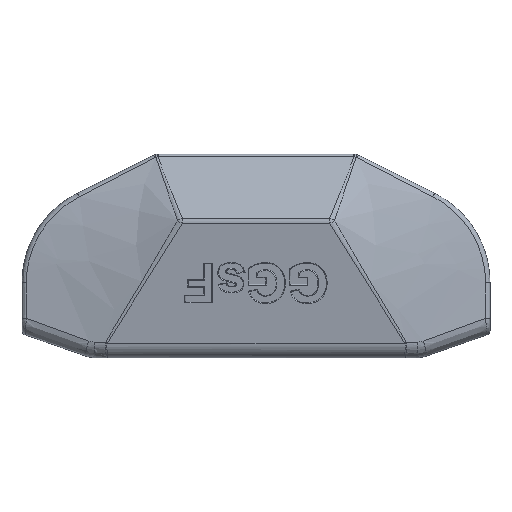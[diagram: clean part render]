
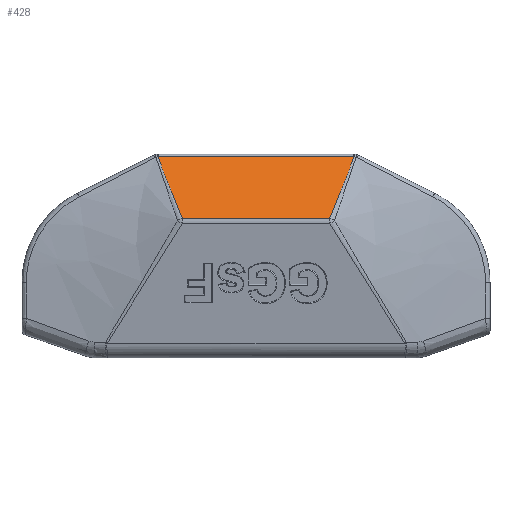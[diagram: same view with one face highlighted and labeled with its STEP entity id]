
A CAD part, top view. The second image highlights one B-rep face of the part: STEP entity #428.
In plain terms, the highlighted planar face has unit normal (0, 0.41, 0.912).
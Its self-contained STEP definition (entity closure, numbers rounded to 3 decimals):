
#155=ELLIPSE('',#2628,1.645,1.5);
#156=ELLIPSE('',#2629,1.645,1.5);
#287=FACE_OUTER_BOUND('',#778,.T.);
#428=ADVANCED_FACE('',(#287),#566,.F.);
#566=PLANE('',#2630);
#639=B_SPLINE_CURVE_WITH_KNOTS('',3,(#4004,#4005,#4006,#4007,#4008,#4009,
#4010,#4011,#4012,#4013),.UNSPECIFIED.,.F.,.F.,(4,3,3,4),(0.,0.463,
0.919,1.),.UNSPECIFIED.);
#640=B_SPLINE_CURVE_WITH_KNOTS('',3,(#4022,#4023,#4024,#4025,#4026,#4027,
#4028,#4029,#4030,#4031),.UNSPECIFIED.,.F.,.F.,(4,3,3,4),(0.,0.081,
0.537,1.),.UNSPECIFIED.);
#778=EDGE_LOOP('',(#1023,#1024,#1025,#1026,#1027,#1028));
#1023=ORIENTED_EDGE('',*,*,#2006,.T.);
#1024=ORIENTED_EDGE('',*,*,#2007,.T.);
#1025=ORIENTED_EDGE('',*,*,#2008,.T.);
#1026=ORIENTED_EDGE('',*,*,#2009,.T.);
#1027=ORIENTED_EDGE('',*,*,#2010,.T.);
#1028=ORIENTED_EDGE('',*,*,#2011,.T.);
#1753=VERTEX_POINT('',#4014);
#1754=VERTEX_POINT('',#4015);
#1755=VERTEX_POINT('',#4017);
#1756=VERTEX_POINT('',#4019);
#1757=VERTEX_POINT('',#4021);
#1758=VERTEX_POINT('',#4032);
#2006=EDGE_CURVE('',#1753,#1754,#639,.T.);
#2007=EDGE_CURVE('',#1754,#1755,#155,.T.);
#2008=EDGE_CURVE('',#1755,#1756,#2336,.T.);
#2009=EDGE_CURVE('',#1756,#1757,#156,.T.);
#2010=EDGE_CURVE('',#1757,#1758,#640,.T.);
#2011=EDGE_CURVE('',#1758,#1753,#2337,.T.);
#2336=LINE('',#4018,#2492);
#2337=LINE('',#4033,#2493);
#2492=VECTOR('',#2875,1.);
#2493=VECTOR('',#2878,1.);
#2628=AXIS2_PLACEMENT_3D('',#4016,#2873,#2874);
#2629=AXIS2_PLACEMENT_3D('',#4020,#2876,#2877);
#2630=AXIS2_PLACEMENT_3D('',#4034,#2879,#2880);
#2873=DIRECTION('',(0.,0.41,0.912));
#2874=DIRECTION('',(0.,-0.912,0.41));
#2875=DIRECTION('',(-1.,0.,0.));
#2876=DIRECTION('',(0.,0.41,0.912));
#2877=DIRECTION('',(0.,0.912,-0.41));
#2878=DIRECTION('',(1.,0.,0.));
#2879=DIRECTION('',(0.,-0.41,-0.912));
#2880=DIRECTION('',(0.,0.912,-0.41));
#4004=CARTESIAN_POINT('',(171.513,30.812,76.635));
#4005=CARTESIAN_POINT('',(172.696,33.619,75.371));
#4006=CARTESIAN_POINT('',(173.846,36.438,74.103));
#4007=CARTESIAN_POINT('',(174.979,39.262,72.832));
#4008=CARTESIAN_POINT('',(176.094,42.043,71.58));
#4009=CARTESIAN_POINT('',(177.192,44.831,70.326));
#4010=CARTESIAN_POINT('',(178.28,47.621,69.07));
#4011=CARTESIAN_POINT('',(178.474,48.119,68.847));
#4012=CARTESIAN_POINT('',(178.667,48.616,68.623));
#4013=CARTESIAN_POINT('',(178.861,49.114,68.399));
#4014=CARTESIAN_POINT('',(171.513,30.812,76.635));
#4015=CARTESIAN_POINT('',(178.861,49.114,68.399));
#4016=CARTESIAN_POINT('',(178.792,47.616,69.073));
#4017=CARTESIAN_POINT('',(178.792,49.116,68.398));
#4018=CARTESIAN_POINT('',(120.208,49.116,68.398));
#4019=CARTESIAN_POINT('',(120.208,49.116,68.398));
#4020=CARTESIAN_POINT('',(120.208,47.616,69.073));
#4021=CARTESIAN_POINT('',(120.139,49.114,68.399));
#4022=CARTESIAN_POINT('',(120.139,49.114,68.399));
#4023=CARTESIAN_POINT('',(120.333,48.616,68.623));
#4024=CARTESIAN_POINT('',(120.526,48.119,68.847));
#4025=CARTESIAN_POINT('',(120.72,47.621,69.07));
#4026=CARTESIAN_POINT('',(121.808,44.831,70.326));
#4027=CARTESIAN_POINT('',(122.906,42.043,71.58));
#4028=CARTESIAN_POINT('',(124.021,39.262,72.832));
#4029=CARTESIAN_POINT('',(125.154,36.438,74.103));
#4030=CARTESIAN_POINT('',(126.304,33.619,75.371));
#4031=CARTESIAN_POINT('',(127.487,30.812,76.635));
#4032=CARTESIAN_POINT('',(127.487,30.812,76.635));
#4033=CARTESIAN_POINT('',(119.5,30.812,76.635));
#4034=CARTESIAN_POINT('',(119.5,50.,68.));
